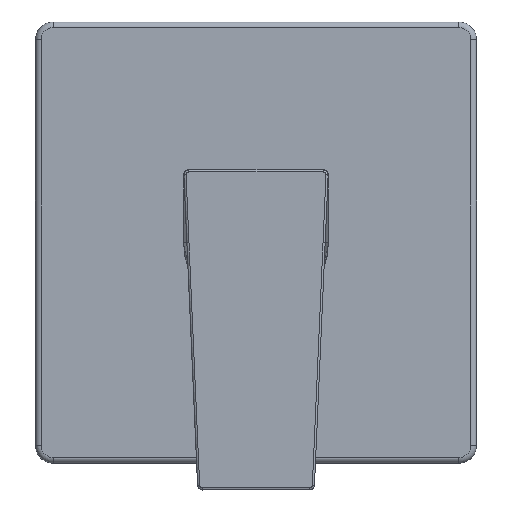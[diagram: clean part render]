
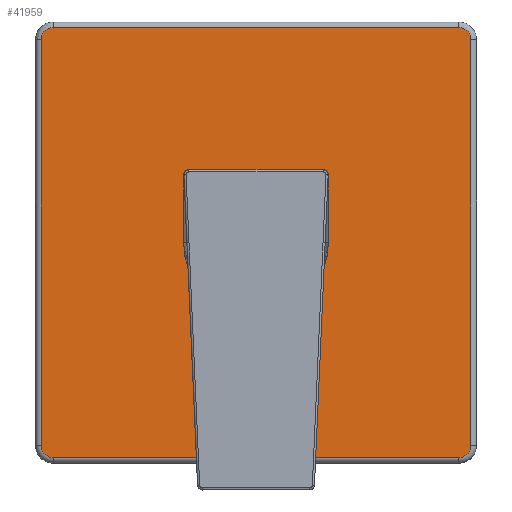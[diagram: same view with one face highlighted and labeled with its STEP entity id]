
A CAD part, top view. The second image highlights one B-rep face of the part: STEP entity #41959.
In plain terms, the highlighted planar face has unit normal (0, 0, 1).
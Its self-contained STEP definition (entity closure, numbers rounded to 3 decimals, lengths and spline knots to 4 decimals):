
#200 = VERTEX_POINT ( 'NONE', #14985 ) ;
#406 = VERTEX_POINT ( 'NONE', #51084 ) ;
#1267 = CIRCLE ( 'NONE', #11645, 1.0255 ) ;
#1273 = DIRECTION ( 'NONE',  ( -1., 0., 0. ) ) ;
#2379 = ORIENTED_EDGE ( 'NONE', *, *, #63552, .T. ) ;
#2385 = AXIS2_PLACEMENT_3D ( 'NONE', #29255, #58239, #43603 ) ;
#2586 = CIRCLE ( 'NONE', #5674, 0.17 ) ;
#2874 = FACE_BOUND ( 'NONE', #56204, .T. ) ;
#3068 = ORIENTED_EDGE ( 'NONE', *, *, #31553, .T. ) ;
#3191 = DIRECTION ( 'NONE',  ( 0., 0., 1. ) ) ;
#4620 = CIRCLE ( 'NONE', #45136, 0.17 ) ;
#5495 = LINE ( 'NONE', #31146, #19517 ) ;
#5674 = AXIS2_PLACEMENT_3D ( 'NONE', #22300, #10941, #40850 ) ;
#5988 = DIRECTION ( 'NONE',  ( 0., 0., 1. ) ) ;
#6501 = EDGE_CURVE ( 'NONE', #35225, #56240, #38558, .T. ) ;
#7334 = EDGE_CURVE ( 'NONE', #40693, #60643, #46242, .T. ) ;
#7729 = ORIENTED_EDGE ( 'NONE', *, *, #34649, .F. ) ;
#8702 = ORIENTED_EDGE ( 'NONE', *, *, #12448, .T. ) ;
#10348 = ORIENTED_EDGE ( 'NONE', *, *, #6501, .T. ) ;
#10888 = DIRECTION ( 'NONE',  ( 1., 0., 0. ) ) ;
#10941 = DIRECTION ( 'NONE',  ( 0., 0., 1. ) ) ;
#11645 = AXIS2_PLACEMENT_3D ( 'NONE', #35257, #55451, #10888 ) ;
#12355 = AXIS2_PLACEMENT_3D ( 'NONE', #59485, #46725, #16769 ) ;
#12448 = EDGE_CURVE ( 'NONE', #56240, #46708, #4620, .T. ) ;
#12598 = EDGE_CURVE ( 'NONE', #60643, #35225, #19151, .T. ) ;
#13840 = CARTESIAN_POINT ( 'NONE',  ( -2.875, -3.045, 0.48 ) ) ;
#14627 = CARTESIAN_POINT ( 'NONE',  ( 2.875, 3.045, 0.48 ) ) ;
#14844 = CARTESIAN_POINT ( 'NONE',  ( -3.045, -2.875, 0.48 ) ) ;
#14985 = CARTESIAN_POINT ( 'NONE',  ( -2.875, 3.045, 0.48 ) ) ;
#15550 = EDGE_CURVE ( 'NONE', #46708, #406, #23195, .T. ) ;
#15992 = EDGE_CURVE ( 'NONE', #406, #48894, #51153, .T. ) ;
#16769 = DIRECTION ( 'NONE',  ( 1., 0., 0. ) ) ;
#16827 = VECTOR ( 'NONE', #57696, 39.3701 ) ;
#17527 = VERTEX_POINT ( 'NONE', #57485 ) ;
#19151 = CIRCLE ( 'NONE', #55505, 0.17 ) ;
#19517 = VECTOR ( 'NONE', #1273, 39.3701 ) ;
#20104 = VERTEX_POINT ( 'NONE', #23462 ) ;
#20589 = DIRECTION ( 'NONE',  ( 1., 0., 0. ) ) ;
#21621 = VECTOR ( 'NONE', #59569, 39.3701 ) ;
#22090 = CARTESIAN_POINT ( 'NONE',  ( -2.875, -2.875, 0.48 ) ) ;
#22300 = CARTESIAN_POINT ( 'NONE',  ( -2.875, 2.875, 0.48 ) ) ;
#22651 = CARTESIAN_POINT ( 'NONE',  ( -3.045, 2.875, 0.48 ) ) ;
#22669 = CARTESIAN_POINT ( 'NONE',  ( -2.875, -2.875, 0.48 ) ) ;
#23195 = LINE ( 'NONE', #37853, #16827 ) ;
#23462 = CARTESIAN_POINT ( 'NONE',  ( -1.0255, 0., 0.48 ) ) ;
#27893 = CIRCLE ( 'NONE', #12355, 1.0255 ) ;
#28391 = CARTESIAN_POINT ( 'NONE',  ( -2.875, -3.045, 0.48 ) ) ;
#29255 = CARTESIAN_POINT ( 'NONE',  ( 2.875, 2.875, 0.48 ) ) ;
#30011 = CARTESIAN_POINT ( 'NONE',  ( 2.875, -2.875, 0.48 ) ) ;
#30277 = CARTESIAN_POINT ( 'NONE',  ( -3.045, -2.875, 0.48 ) ) ;
#31146 = CARTESIAN_POINT ( 'NONE',  ( -2.875, 3.045, 0.48 ) ) ;
#31553 = EDGE_CURVE ( 'NONE', #48894, #200, #5495, .T. ) ;
#34389 = DIRECTION ( 'NONE',  ( 1., 0., 0. ) ) ;
#34649 = EDGE_CURVE ( 'NONE', #20104, #17527, #27893, .T. ) ;
#35225 = VERTEX_POINT ( 'NONE', #28391 ) ;
#35257 = CARTESIAN_POINT ( 'NONE',  ( 0., 0., 0.48 ) ) ;
#35465 = EDGE_LOOP ( 'NONE', ( #2379, #62917, #59895, #10348, #8702, #38830, #56697, #3068 ) ) ;
#37853 = CARTESIAN_POINT ( 'NONE',  ( 3.045, -2.875, 0.48 ) ) ;
#38558 = LINE ( 'NONE', #13840, #54805 ) ;
#38830 = ORIENTED_EDGE ( 'NONE', *, *, #15550, .T. ) ;
#40693 = VERTEX_POINT ( 'NONE', #22651 ) ;
#40850 = DIRECTION ( 'NONE',  ( 1., 0., 0. ) ) ;
#41942 = DIRECTION ( 'NONE',  ( 0., 0., 1. ) ) ;
#41959 = ADVANCED_FACE ( 'NONE', ( #2874, #61397 ), #47737, .T. ) ;
#42524 = DIRECTION ( 'NONE',  ( 1., 0., 0. ) ) ;
#43603 = DIRECTION ( 'NONE',  ( 1., 0., 0. ) ) ;
#44785 = CARTESIAN_POINT ( 'NONE',  ( 2.875, -3.045, 0.48 ) ) ;
#45024 = EDGE_CURVE ( 'NONE', #17527, #20104, #1267, .T. ) ;
#45136 = AXIS2_PLACEMENT_3D ( 'NONE', #30011, #5988, #20589 ) ;
#46242 = LINE ( 'NONE', #30277, #21621 ) ;
#46708 = VERTEX_POINT ( 'NONE', #61782 ) ;
#46725 = DIRECTION ( 'NONE',  ( 0., 0., 1. ) ) ;
#47737 = PLANE ( 'NONE',  #61860 ) ;
#48894 = VERTEX_POINT ( 'NONE', #14627 ) ;
#51084 = CARTESIAN_POINT ( 'NONE',  ( 3.045, 2.875, 0.48 ) ) ;
#51153 = CIRCLE ( 'NONE', #2385, 0.17 ) ;
#52898 = DIRECTION ( 'NONE',  ( 1., 0., 0. ) ) ;
#54805 = VECTOR ( 'NONE', #52898, 39.3701 ) ;
#55451 = DIRECTION ( 'NONE',  ( 0., 0., 1. ) ) ;
#55505 = AXIS2_PLACEMENT_3D ( 'NONE', #22090, #41942, #34389 ) ;
#56204 = EDGE_LOOP ( 'NONE', ( #57624, #7729 ) ) ;
#56240 = VERTEX_POINT ( 'NONE', #44785 ) ;
#56697 = ORIENTED_EDGE ( 'NONE', *, *, #15992, .T. ) ;
#57485 = CARTESIAN_POINT ( 'NONE',  ( 1.0255, 0., 0.48 ) ) ;
#57624 = ORIENTED_EDGE ( 'NONE', *, *, #45024, .F. ) ;
#57696 = DIRECTION ( 'NONE',  ( 0., 1., 0. ) ) ;
#58239 = DIRECTION ( 'NONE',  ( 0., 0., 1. ) ) ;
#59485 = CARTESIAN_POINT ( 'NONE',  ( 0., 0., 0.48 ) ) ;
#59569 = DIRECTION ( 'NONE',  ( 0., -1., 0. ) ) ;
#59895 = ORIENTED_EDGE ( 'NONE', *, *, #12598, .T. ) ;
#60643 = VERTEX_POINT ( 'NONE', #14844 ) ;
#61397 = FACE_OUTER_BOUND ( 'NONE', #35465, .T. ) ;
#61782 = CARTESIAN_POINT ( 'NONE',  ( 3.045, -2.875, 0.48 ) ) ;
#61860 = AXIS2_PLACEMENT_3D ( 'NONE', #22669, #3191, #42524 ) ;
#62917 = ORIENTED_EDGE ( 'NONE', *, *, #7334, .T. ) ;
#63552 = EDGE_CURVE ( 'NONE', #200, #40693, #2586, .T. ) ;
